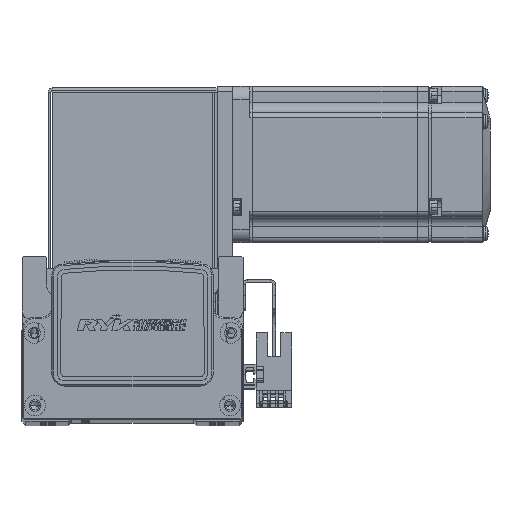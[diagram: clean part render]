
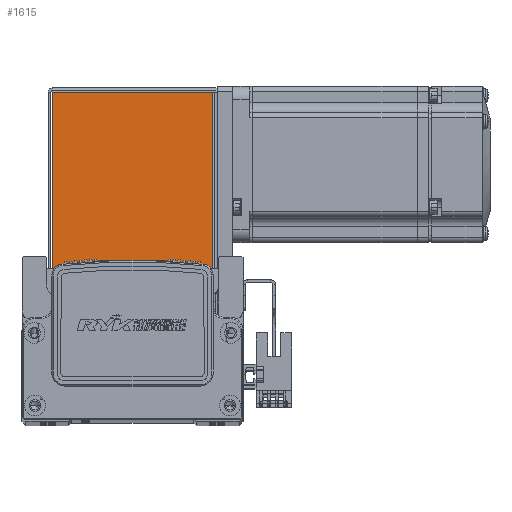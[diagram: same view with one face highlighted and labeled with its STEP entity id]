
A CAD part, top view. The second image highlights one B-rep face of the part: STEP entity #1615.
In plain terms, the highlighted planar face has unit normal (0, 0, 1) as drawn and (0, 0, -1) by its records, which use the part's own axes.
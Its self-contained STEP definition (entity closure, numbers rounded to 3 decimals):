
#1615 = ADVANCED_FACE ( 'NONE', ( #82587 ), #58851, .F. ) ;
#7388 = EDGE_CURVE ( 'NONE', #9535, #9451, #83364, .T. ) ;
#7403 = EDGE_CURVE ( 'NONE', #9498, #9451, #83328, .T. ) ;
#7437 = EDGE_CURVE ( 'NONE', #9498, #9544, #83534, .T. ) ;
#7439 = EDGE_CURVE ( 'NONE', #9544, #9535, #83478, .T. ) ;
#9451 = VERTEX_POINT ( 'NONE', #54915 ) ;
#9498 = VERTEX_POINT ( 'NONE', #55038 ) ;
#9535 = VERTEX_POINT ( 'NONE', #55087 ) ;
#9544 = VERTEX_POINT ( 'NONE', #55053 ) ;
#20513 = EDGE_LOOP ( 'NONE', ( #35930, #35935, #35961, #35936 ) ) ;
#35930 = ORIENTED_EDGE ( 'NONE', *, *, #7388, .T. ) ;
#35935 = ORIENTED_EDGE ( 'NONE', *, *, #7403, .F. ) ;
#35936 = ORIENTED_EDGE ( 'NONE', *, *, #7439, .T. ) ;
#35961 = ORIENTED_EDGE ( 'NONE', *, *, #7437, .T. ) ;
#54915 = CARTESIAN_POINT ( 'NONE',  ( 30.763, 0.737, -35. ) ) ;
#55038 = CARTESIAN_POINT ( 'NONE',  ( -30.793, 0.737, -35. ) ) ;
#55053 = CARTESIAN_POINT ( 'NONE',  ( -30.793, 68.5, -35. ) ) ;
#55087 = CARTESIAN_POINT ( 'NONE',  ( 30.763, 68.5, -35. ) ) ;
#58831 = DIRECTION ( 'NONE',  ( 0., 0., 1. ) ) ;
#58832 = DIRECTION ( 'NONE',  ( 0., -1., 0. ) ) ;
#58846 = CARTESIAN_POINT ( 'NONE',  ( 0., 0., -35. ) ) ;
#58851 = PLANE ( 'NONE',  #77790 ) ;
#75826 = CARTESIAN_POINT ( 'NONE',  ( 30.763, 68.5, -35. ) ) ;
#75937 = CARTESIAN_POINT ( 'NONE',  ( 32.5, 0.737, -35. ) ) ;
#75940 = DIRECTION ( 'NONE',  ( 1., 0., 0. ) ) ;
#75949 = DIRECTION ( 'NONE',  ( 0., -1., 0. ) ) ;
#76243 = CARTESIAN_POINT ( 'NONE',  ( -30.793, 0., -35. ) ) ;
#76245 = DIRECTION ( 'NONE',  ( 0., 1., 0. ) ) ;
#76247 = DIRECTION ( 'NONE',  ( 1., 0., 0. ) ) ;
#76292 = CARTESIAN_POINT ( 'NONE',  ( 0., 68.5, -35. ) ) ;
#77790 = AXIS2_PLACEMENT_3D ( 'NONE', #58846, #58831, #58832 ) ;
#82587 = FACE_OUTER_BOUND ( 'NONE', #20513, .T. ) ;
#83328 = LINE ( 'NONE', #75937, #83404 ) ;
#83364 = LINE ( 'NONE', #75826, #83442 ) ;
#83404 = VECTOR ( 'NONE', #75940, 1000. ) ;
#83442 = VECTOR ( 'NONE', #75949, 1000. ) ;
#83448 = VECTOR ( 'NONE', #76245, 1000. ) ;
#83478 = LINE ( 'NONE', #76292, #83510 ) ;
#83510 = VECTOR ( 'NONE', #76247, 1000. ) ;
#83534 = LINE ( 'NONE', #76243, #83448 ) ;
